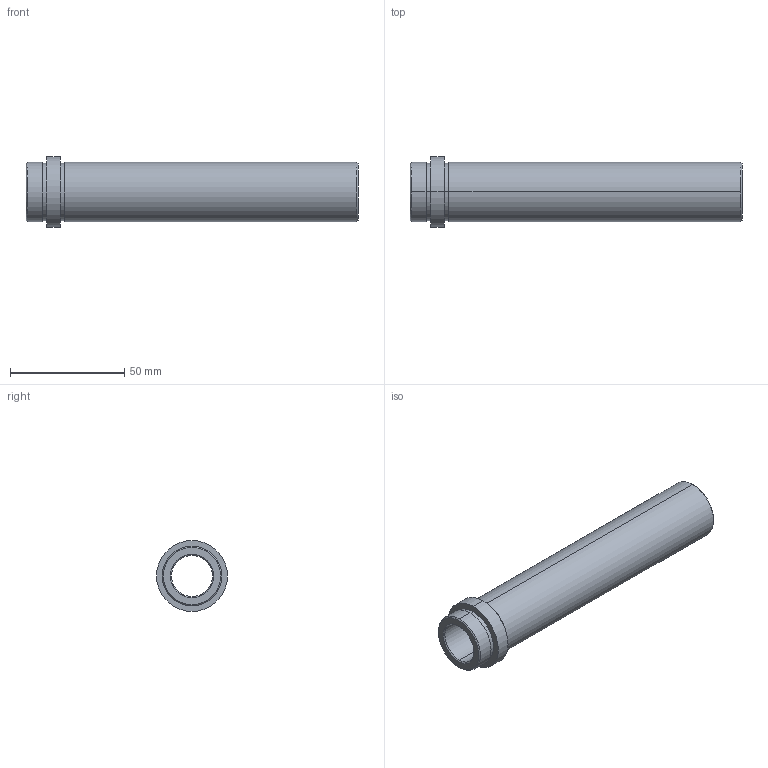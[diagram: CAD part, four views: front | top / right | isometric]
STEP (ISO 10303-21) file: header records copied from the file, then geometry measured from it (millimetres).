
FILE_DESCRIPTION( ( 'STEP AP203' ), '1' );
FILE_NAME( 'D:/Delta 3 D/D21/D21 - 18x136.step', '2002-12-31T22:33:52', ( ' ' ), ( ' ' ), 'XStep 1.0', ' ', ' ' );
FILE_SCHEMA( ( 'CONFIG_CONTROL_DESIGN' ) );
Length unit declared in the file: metre
Products named in the file (1): 1
Bounding box: 145 x 31 x 31 mm (x, y, z)
Volume: 41235 mm3; surface area: 21204.9 mm2
Topology: 1 solids, 1 shells, 26 faces, 52 edges, 32 vertices
Faces by surface type: revolution 20, bspline 6
Entity records: 773 total; most frequent: CARTESIAN_POINT 169, DIRECTION 106, ORIENTED_EDGE 104, EDGE_CURVE 52, AXIS2_PLACEMENT_3D 33, EDGE_LOOP 32, VERTEX_POINT 32, CIRCLE 32
